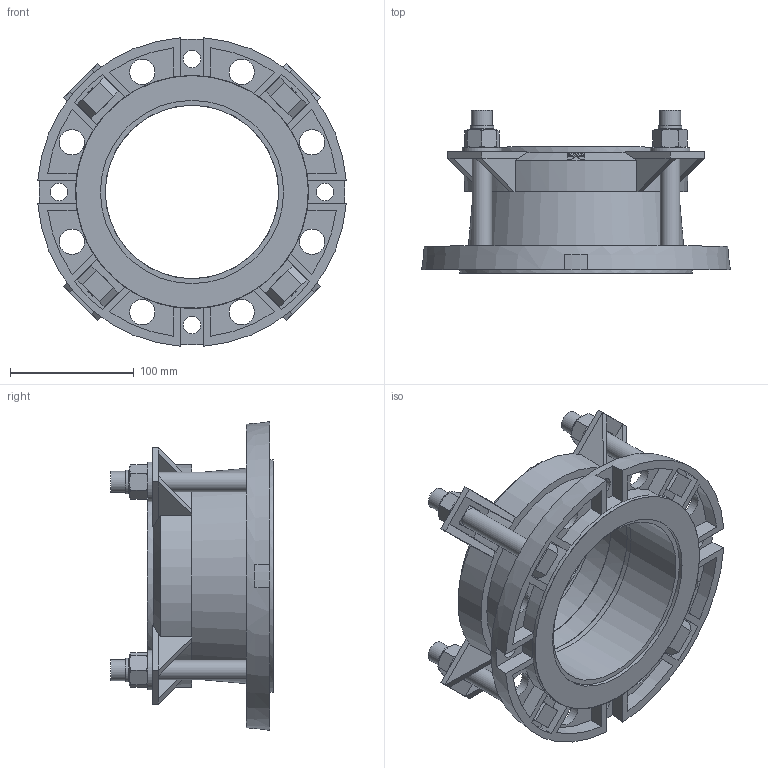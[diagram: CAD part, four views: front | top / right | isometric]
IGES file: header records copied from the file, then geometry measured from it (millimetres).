
Start section: SolidWorks IGES file using analytic representation for surfaces
Global section: file name: \\avksan2\techshare\PBM outline export from Enovia\O_623_10_DN125-140mm_X1XXXXX_REV01.igs; native system: SolidWorks 2019; preprocessor: SolidWorks 2019; author: pbm; date: 200417.104932; units: millimetre
Bounding box: 249.28 x 131.5 x 249.28 mm (x, y, z)
Surface area: 248222.9 mm2 (no closed solid volume)
Topology: 0 solids, 0 shells, 425 faces, 2082 edges, 2028 vertices
Faces by surface type: bspline 259, revolution 166
